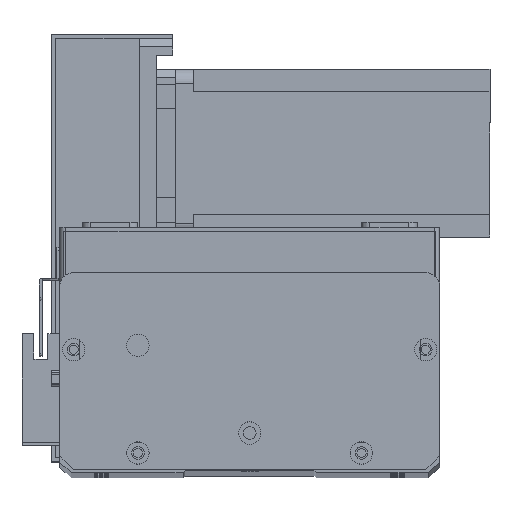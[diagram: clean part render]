
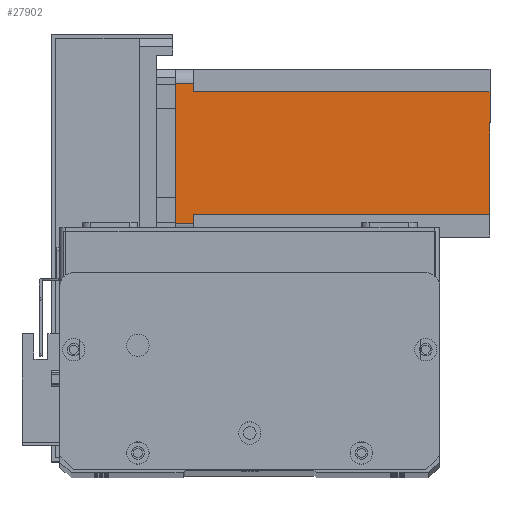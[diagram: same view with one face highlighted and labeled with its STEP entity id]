
A CAD part, top view. The second image highlights one B-rep face of the part: STEP entity #27902.
In plain terms, the highlighted planar face has unit normal (0, 0, 1) as drawn and (0, -1, 0) by its records, which use the part's own axes.
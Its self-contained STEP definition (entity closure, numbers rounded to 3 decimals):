
#698 = VERTEX_POINT ( 'NONE', #4014 ) ;
#1009 = DIRECTION ( 'NONE',  ( 1., 0., 0. ) ) ;
#1071 = CARTESIAN_POINT ( 'NONE',  ( 52., 0., -112.5 ) ) ;
#1456 = CARTESIAN_POINT ( 'NONE',  ( 52., 0., -6.5 ) ) ;
#1569 = ORIENTED_EDGE ( 'NONE', *, *, #10303, .F. ) ;
#1947 = ORIENTED_EDGE ( 'NONE', *, *, #22032, .T. ) ;
#2327 = VECTOR ( 'NONE', #17868, 1000. ) ;
#2454 = CARTESIAN_POINT ( 'NONE',  ( 52., 0., -112.5 ) ) ;
#2740 = EDGE_CURVE ( 'NONE', #3452, #4653, #12472, .T. ) ;
#3116 = LINE ( 'NONE', #12853, #21294 ) ;
#3452 = VERTEX_POINT ( 'NONE', #17737 ) ;
#4014 = CARTESIAN_POINT ( 'NONE',  ( 55., 0., -6.5 ) ) ;
#4016 = VERTEX_POINT ( 'NONE', #2454 ) ;
#4653 = VERTEX_POINT ( 'NONE', #20129 ) ;
#4796 = VERTEX_POINT ( 'NONE', #9037 ) ;
#4911 = VERTEX_POINT ( 'NONE', #23346 ) ;
#6288 = VECTOR ( 'NONE', #25231, 1000. ) ;
#7651 = EDGE_CURVE ( 'NONE', #4911, #3452, #3116, .T. ) ;
#7667 = DIRECTION ( 'NONE',  ( 1., 0., 0. ) ) ;
#7815 = VECTOR ( 'NONE', #1009, 1000. ) ;
#8576 = LINE ( 'NONE', #14854, #7815 ) ;
#8591 = LINE ( 'NONE', #11142, #2327 ) ;
#8596 = DIRECTION ( 'NONE',  ( 0., 0., -1. ) ) ;
#9037 = CARTESIAN_POINT ( 'NONE',  ( 52., 0., -6.5 ) ) ;
#9390 = DIRECTION ( 'NONE',  ( 0., 0., 1. ) ) ;
#9989 = ORIENTED_EDGE ( 'NONE', *, *, #12897, .T. ) ;
#10298 = LINE ( 'NONE', #23405, #15589 ) ;
#10303 = EDGE_CURVE ( 'NONE', #22862, #15272, #10298, .T. ) ;
#11142 = CARTESIAN_POINT ( 'NONE',  ( 5., 0., -112.5 ) ) ;
#11282 = VECTOR ( 'NONE', #19734, 1000. ) ;
#11646 = EDGE_LOOP ( 'NONE', ( #23587, #12125, #1569, #1947, #25669, #22908, #9989, #15659 ) ) ;
#11961 = EDGE_CURVE ( 'NONE', #4796, #698, #23119, .T. ) ;
#12125 = ORIENTED_EDGE ( 'NONE', *, *, #15526, .T. ) ;
#12472 = LINE ( 'NONE', #27343, #6288 ) ;
#12853 = CARTESIAN_POINT ( 'NONE',  ( 8., 0., -112.5 ) ) ;
#12897 = EDGE_CURVE ( 'NONE', #4911, #4016, #8576, .T. ) ;
#12958 = DIRECTION ( 'NONE',  ( 0., 0., 1. ) ) ;
#13883 = CARTESIAN_POINT ( 'NONE',  ( 55., 0., -112.5 ) ) ;
#14163 = CARTESIAN_POINT ( 'NONE',  ( 5., 0., 0. ) ) ;
#14854 = CARTESIAN_POINT ( 'NONE',  ( 0., 0., -112.5 ) ) ;
#15179 = CARTESIAN_POINT ( 'NONE',  ( 55., 0., 0. ) ) ;
#15272 = VERTEX_POINT ( 'NONE', #15179 ) ;
#15526 = EDGE_CURVE ( 'NONE', #698, #15272, #26875, .T. ) ;
#15589 = VECTOR ( 'NONE', #7667, 1000. ) ;
#15659 = ORIENTED_EDGE ( 'NONE', *, *, #16402, .F. ) ;
#15790 = VECTOR ( 'NONE', #17111, 1000. ) ;
#16402 = EDGE_CURVE ( 'NONE', #4796, #4016, #21700, .T. ) ;
#17111 = DIRECTION ( 'NONE',  ( 0., 0., -1. ) ) ;
#17563 = PLANE ( 'NONE',  #18434 ) ;
#17737 = CARTESIAN_POINT ( 'NONE',  ( 8., 0., -6.5 ) ) ;
#17868 = DIRECTION ( 'NONE',  ( 0., 0., -1. ) ) ;
#18434 = AXIS2_PLACEMENT_3D ( 'NONE', #28537, #22051, #8596 ) ;
#19734 = DIRECTION ( 'NONE',  ( 1., 0., 0. ) ) ;
#20129 = CARTESIAN_POINT ( 'NONE',  ( 5., 0., -6.5 ) ) ;
#20706 = FACE_OUTER_BOUND ( 'NONE', #11646, .T. ) ;
#21294 = VECTOR ( 'NONE', #12958, 1000. ) ;
#21700 = LINE ( 'NONE', #1071, #15790 ) ;
#22032 = EDGE_CURVE ( 'NONE', #22862, #4653, #8591, .T. ) ;
#22051 = DIRECTION ( 'NONE',  ( 0., -1., 0. ) ) ;
#22862 = VERTEX_POINT ( 'NONE', #14163 ) ;
#22908 = ORIENTED_EDGE ( 'NONE', *, *, #7651, .F. ) ;
#23119 = LINE ( 'NONE', #1456, #11282 ) ;
#23346 = CARTESIAN_POINT ( 'NONE',  ( 8., 0., -112.5 ) ) ;
#23405 = CARTESIAN_POINT ( 'NONE',  ( 0., 0., 0. ) ) ;
#23587 = ORIENTED_EDGE ( 'NONE', *, *, #11961, .T. ) ;
#25231 = DIRECTION ( 'NONE',  ( -1., 0., 0. ) ) ;
#25669 = ORIENTED_EDGE ( 'NONE', *, *, #2740, .F. ) ;
#26875 = LINE ( 'NONE', #13883, #28251 ) ;
#27343 = CARTESIAN_POINT ( 'NONE',  ( 8., 0., -6.5 ) ) ;
#27902 = ADVANCED_FACE ( 'NONE', ( #20706 ), #17563, .T. ) ;
#28251 = VECTOR ( 'NONE', #9390, 1000. ) ;
#28537 = CARTESIAN_POINT ( 'NONE',  ( 0., 0., -112.5 ) ) ;
